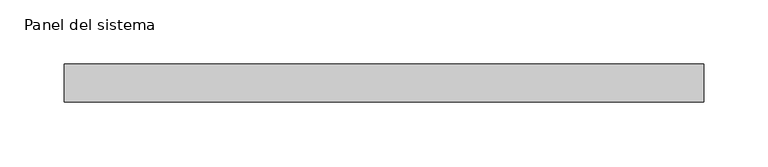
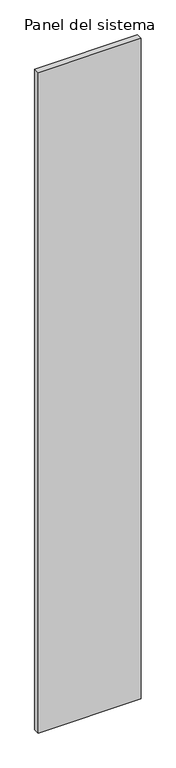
"""IFC4 building model written with IfcOpenShell, lengths in millimetres: plate geometry, Panel del sistema : HIANSA PANEL - PANELES DE CUBIERTA SIN TAPAJUNTA - EASY AGRO 5GR - Esp. 30mm."""

from ifc_helpers import new_model, si_unit, origin, origin_with_axes, place, context, project, spatial, polyline, outline, extrude, source, transform, mapped, element, save


def panel_del_sistema_ad268808(model_context):
    return source(origin(), model_context, "Body", "SweptSolid", [
        extrude(outline(polyline([(249.9999998, 0.0), (-249.9999998, 0.0), (-249.9999998, 30.0), (249.9999998, 30.0), (249.9999998, 0.0)])), origin_with_axes(), (0.0, 0.0, 1.0), 3390.8509027),
    ])


if __name__ == "__main__":
    model = new_model("IFC4")
    model_context = context("Model", 3, world=origin())
    ifc_project = project(units=[si_unit("LENGTHUNIT", "METRE", prefix="MILLI")], contexts=[model_context])
    site = spatial("IfcSite", under=ifc_project)
    building = spatial("IfcBuilding", under=site)
    placement = place(None, origin())
    panel_del_sistema_shape = panel_del_sistema_ad268808(model_context)
    element("IfcPlate", 1, ObjectType="Panel del sistema : HIANSA PANEL - PANELES DE CUBIERTA SIN TAPAJUNTA - EASY AGRO 5GR - Esp. 30mm", at=placement, inside=building, context=model_context, shape_type="MappedRepresentation", body=[
        mapped(panel_del_sistema_shape, transform((0.0, 0.0, 0.0), x_axis=(1.0, 0.0, 0.0), y_axis=(0.0, 1.0, 0.0), z_axis=(0.0, 0.0, 1.0))),
    ])
    save(model, "model.ifc")
